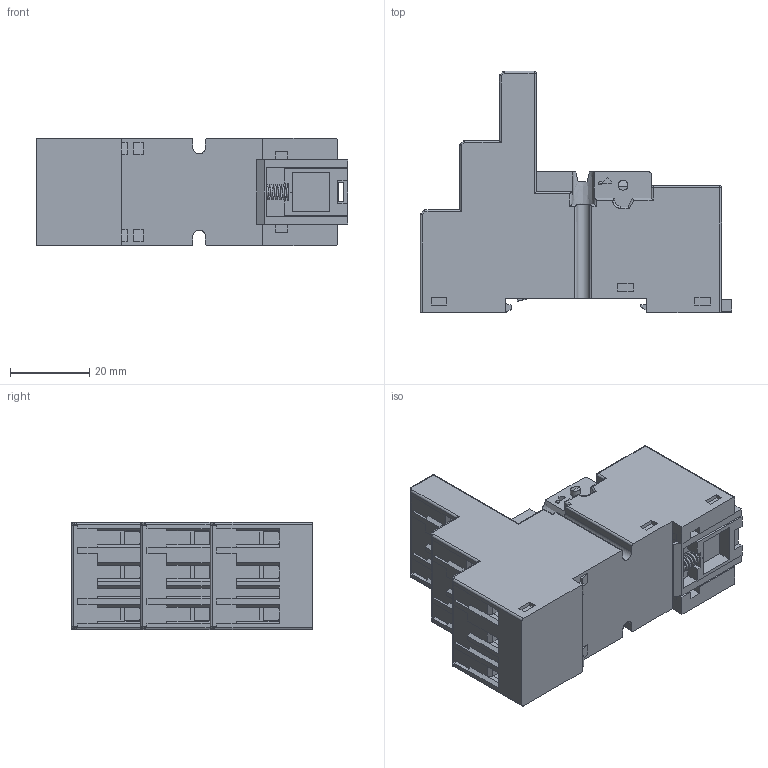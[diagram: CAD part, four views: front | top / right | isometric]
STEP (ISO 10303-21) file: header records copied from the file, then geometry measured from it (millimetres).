
FILE_DESCRIPTION(('STEP AP214'),'2;1');
FILE_NAME('9403_catalogo.stp','2010-09-07T16:48:58',(''),(''),'2007.1.106','THINKDESIGN','');
FILE_SCHEMA(('AUTOMOTIVE_DESIGN'));
Products named in the file (1): None
Bounding box: 78.6 x 60.9 x 27 mm (x, y, z)
Surface area: 21744.3 mm2 (no closed solid volume)
Topology: 0 solids, 0 shells, 874 faces, 4713 edges, 4692 vertices
Faces by surface type: plane 671, cylinder 136, bspline 67
Full cylindrical faces by diameter (mm): 0.9 x1, 2.5 x1, 3 x1, 4.7 x11, 5 x11
Entity records: 48351 total; most frequent: CARTESIAN_POINT 13685, DIRECTION 6050, COMPOSITE_CURVE_SEGMENT 4692, TRIMMED_CURVE 4150, VECTOR 3864, LINE 3864, AXIS2_PLACEMENT_3D 1093, OUTER_BOUNDARY_CURVE 874
